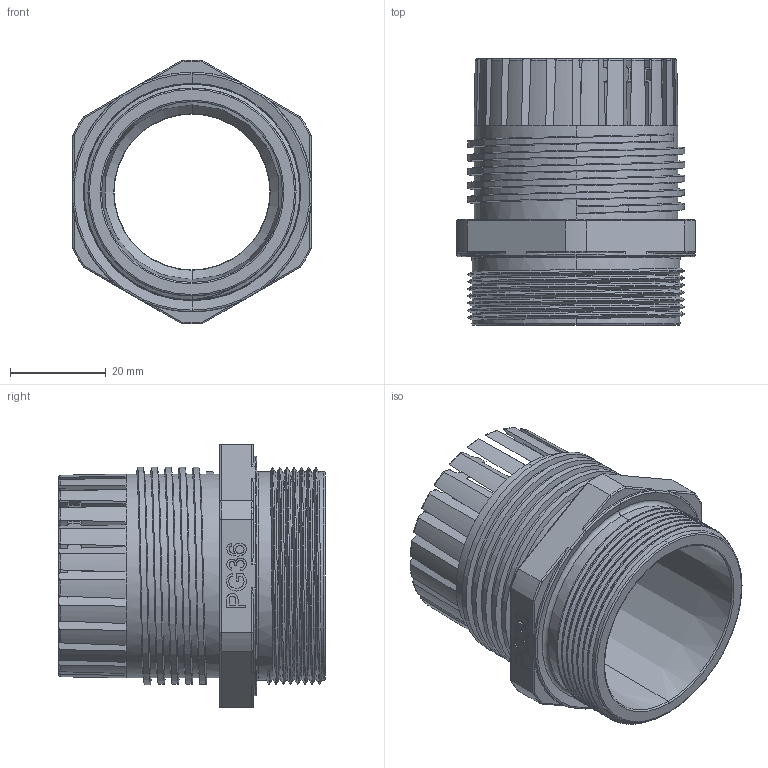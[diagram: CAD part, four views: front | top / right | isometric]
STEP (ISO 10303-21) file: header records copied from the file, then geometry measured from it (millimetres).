
FILE_DESCRIPTION (( 'STEP AP214' ), '1' );
FILE_NAME ('plc-pg-36-00.00.001 昢膼瘔 (PG36) #base (PG36)#.STEP', '2024-04-24T10:17:28', ( '' ), ( '' ), 'SwSTEP 2.0', 'SolidWorks 2021', '' );
FILE_SCHEMA (( 'AUTOMOTIVE_DESIGN' ));
Length unit declared in the file: millimetre
Products named in the file (1): plc-pg-36-00.00.001 昢膼瘔 (PG36) #base (PG36)#
Bounding box: 49.7 x 55.5 x 55 mm (x, y, z)
Volume: 24640.6 mm3; surface area: 20199.2 mm2
Topology: 1 solids, 1 shells, 509 faces, 1389 edges, 893 vertices
Faces by surface type: plane 173, cone 111, cylinder 87, torus 76, bspline 62
Entity records: 23799 total; most frequent: CARTESIAN_POINT 11141, ORIENTED_EDGE 2778, DIRECTION 2046, EDGE_CURVE 1389, VERTEX_POINT 893, AXIS2_PLACEMENT_3D 812, EDGE_LOOP 522, ADVANCED_FACE 509
